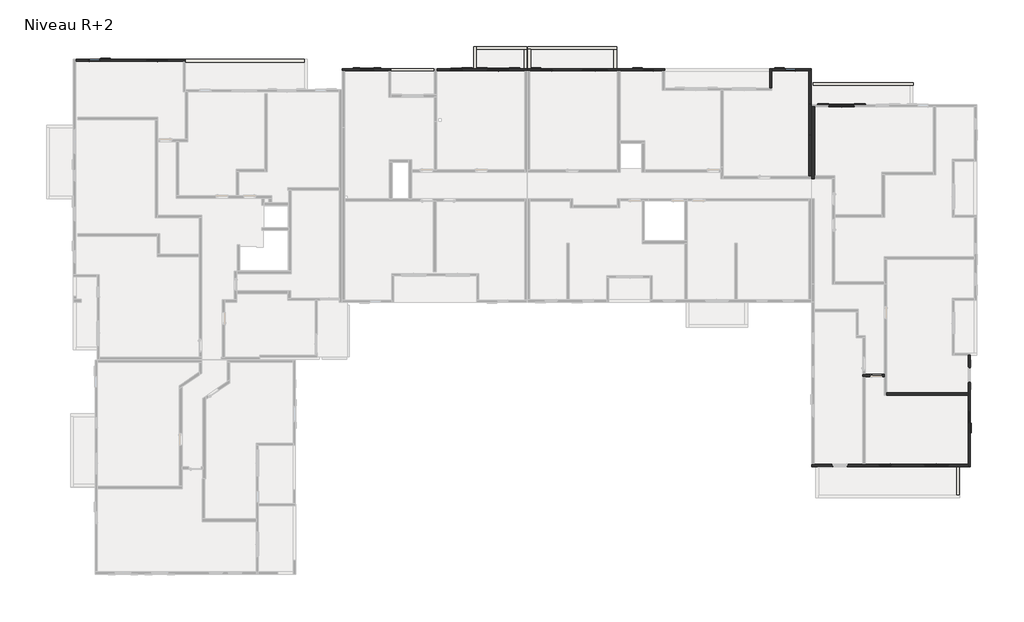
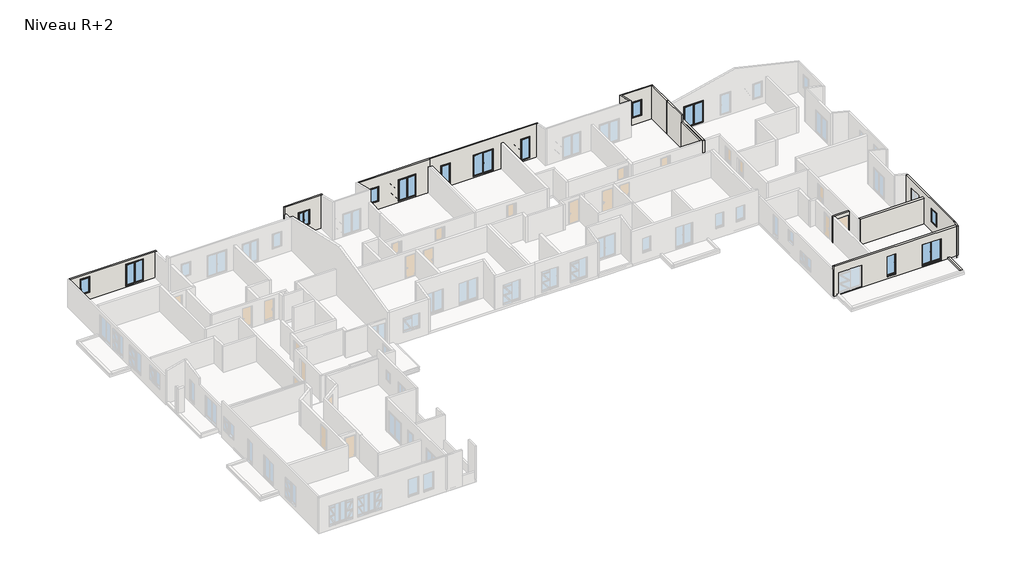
# One storey, part 6 of 7: 24 walls, 13 windows.
"""IFC4 building model written with IfcOpenShell, lengths in millimetres."""

from ifc_helpers import new_model, si_unit, frame, origin, place, context, project, spatial, polyline, outline, extrude, faceted_brep, transform, mapped, element, save
from components import window_4f2076fb, window_e9bb7084, window_f6eb430b, window_ad9d5288, window_5cb186f5, window_0_80m_x_2_05m_30132c93, window_0_80m_x_2_15m_d907a714, window_1_60m_x_2_15m_1bfb613b, window_1_60m_x_2_15m_e7e592b5, window_1_80m_x_2_15m_7d3a4370, window_1_80m_x_2_15m_c17098d0

model = new_model("IFC4")

# Units and contexts
model_context = context("Model", 3, world=origin())
ifc_project = project(units=[si_unit("LENGTHUNIT", "METRE", prefix="MILLI")], contexts=[model_context])

# Site, building, storey
site = spatial("IfcSite", under=ifc_project)
building = spatial("IfcBuilding", under=site)
storey = spatial("IfcBuildingStorey", under=building, Name="Niveau R+2", Elevation=6120.0)

# Walls
placement = place(None, origin())
element("IfcWall", 1, ObjectType="Ext. Voile BA 16 + 2 + 2", at=placement, inside=storey, context=model_context, shape_type="SweptSolid", body=[
    extrude(outline(polyline([(5830.0, 27444.3814808), (5830.0, 30904.3814808), (6030.0, 30904.3814808), (6030.0, 30824.3814808), (6980.0, 30824.3814808), (6980.0, 27524.3814808), (6030.0, 27524.3814808), (6030.0, 27444.3814808), (5830.0, 27444.3814808)])), frame((0.0, 31947.4974719, 0.0), z_axis=(0.0, 1.0, 0.0), x_axis=(0.0, 0.0, 1.0)), (0.0, 0.0, 1.0), 160.0),
])
element("IfcWall", 2, ObjectType="Ext. Voile BA 16 + Isolant 12 sans enduit", at=placement, inside=storey, context=model_context, shape_type="Brep", body=[
    faceted_brep([(59132.9661689, 29387.496363, 6030.0), (59132.9661689, 27052.4942338, 6030.0), (59132.9661689, 27052.4942338, 8650.0), (59132.9661689, 27052.4942338, 9400.7771099), (59132.9661689, 29387.496363, 9400.7771099), (59292.9661689, 29387.496363, 6030.0), (59292.9661689, 29387.496363, 9363.8381993), (59292.9661689, 27052.4942338, 9363.8381993), (59292.9661689, 27052.4942338, 8650.0), (59292.9661689, 27052.4942338, 6030.0)], [[[0, 1, 2, 3, 4]], [[5, 6, 7, 8, 9]], [[1, 0, 5, 9]], [[3, 2, 1, 9, 8, 7]], [[0, 4, 6, 5]], [[4, 3, 7, 6]]]),
])
element("IfcWall", 3, ObjectType="Ext. Voile BA 16 + Isolant 120", at=placement, inside=storey, context=model_context, shape_type="Brep", body=[
    faceted_brep([(23871.9389593, 31947.4974719, 5830.0), (27444.3814808, 31947.4974719, 5830.0), (27444.3814808, 31947.4974719, 6030.0), (27524.3814808, 31947.4974719, 6030.0), (27524.3814808, 31947.4974719, 9403.3012228), (27364.3814808, 31947.4974719, 9403.3012228), (23872.0202028, 31947.4974719, 9403.3012228), (23872.0030755, 31947.4974719, 8649.9999985), (23871.9435065, 31947.4974719, 6029.9999999), (26224.3814808, 31947.4974719, 6855.0), (25224.3814808, 31947.4974719, 6855.0), (25174.3814808, 31947.4974719, 6855.0), (25174.3814808, 31947.4974719, 8355.0), (26274.3814808, 31947.4974719, 8355.0), (26274.3814808, 31947.4974719, 6855.0), (27444.3814808, 32107.4974719, 5830.0), (23871.9389593, 32107.4974719, 5830.0), (23871.9389593, 32107.4974719, 9366.3623123), (27524.3814808, 32107.4974719, 9366.3623123), (27524.3814808, 32107.4974719, 6030.0), (27444.3814808, 32107.4974719, 6030.0), (25224.3814808, 32107.4974719, 8305.0), (25224.3814808, 32107.4974719, 6775.0), (26224.3814808, 32107.4974719, 6775.0), (26224.3814808, 32107.4974719, 8305.0), (25224.3814808, 32027.4974719, 6855.0), (25224.3814808, 32027.4974719, 6775.0), (25224.3814808, 32047.4974719, 8305.0), (25224.3814808, 32047.4974719, 6855.0), (26224.3814808, 32027.4974719, 6775.0), (26224.3814808, 32027.4974719, 6855.0), (26224.3814808, 32047.4974719, 6855.0), (26224.3814808, 32047.4974719, 8305.0), (25214.3814808, 32047.4974719, 6855.0), (25214.3814808, 31997.4974719, 6855.0), (25174.3814808, 31997.4974719, 6855.0), (26274.3814808, 31997.4974719, 6855.0), (26234.3814808, 31997.4974719, 6855.0), (26234.3814808, 32047.4974719, 6855.0), (25174.3814808, 31997.4974719, 8355.0), (26274.3814808, 31997.4974719, 8355.0), (25214.3814808, 31997.4974719, 8315.0), (26234.3814808, 31997.4974719, 8315.0), (25214.3814808, 32047.4974719, 8315.0), (26234.3814808, 32047.4974719, 8315.0)], [[[0, 1, 2, 3, 4, 5, 6, 7, 8], [9, 10, 11, 12, 13, 14]], [[15, 16, 17, 18, 19, 20], [21, 22, 23, 24]], [[1, 0, 16, 15]], [[25, 26, 22, 21, 27, 28]], [[29, 30, 31, 32, 24, 23]], [[25, 28, 33, 34, 35, 11, 10, 9, 14, 36, 37, 38, 31, 30]], [[32, 27, 21, 24]], [[26, 29, 23, 22]], [[26, 25, 30, 29]], [[11, 35, 39, 12]], [[37, 36, 40, 39, 35, 34, 41, 42]], [[34, 33, 43, 41]], [[28, 27, 32, 31, 38, 44, 43, 33]], [[12, 39, 40, 13]], [[42, 41, 43, 44]], [[36, 14, 13, 40]], [[38, 37, 42, 44]], [[1, 15, 20, 2]], [[3, 2, 20, 19]], [[3, 19, 18, 4]], [[16, 0, 8, 7, 6, 17]], [[4, 18, 17, 6, 5]]]),
])
element("IfcWall", 4, ObjectType="Ext. Voile BA 16 + Isolant 120", at=placement, inside=storey, context=model_context, shape_type="Brep", body=[
    faceted_brep([(30904.3814808, 31947.4972516, 5830.0), (30984.3814808, 31947.4972516, 5830.0), (37808.3832806, 31947.4972516, 5830.0), (37829.4832806, 31947.4972516, 5830.0), (37829.4832806, 31947.4972516, 6030.0), (37829.4832806, 31947.4972516, 8650.0), (37829.4832806, 31947.4972516, 9403.3012737), (30984.3814808, 31947.4972516, 9403.3012737), (30984.3814808, 31947.4972516, 6030.0), (30904.3814808, 31947.4972516, 6030.0), (32864.3814808, 31947.4972516, 6855.0), (32064.3814808, 31947.4972516, 6855.0), (32014.3814808, 31947.4972516, 6855.0), (32014.3814808, 31947.4972516, 8355.0), (32914.3814808, 31947.4972516, 8355.0), (32914.3814808, 31947.4972516, 6855.0), (36445.3833051, 31947.4972516, 6155.0), (34845.3833051, 31947.4972516, 6155.0), (34795.3833051, 31947.4972516, 6155.0), (34795.3833051, 31947.4972516, 8355.0), (36495.3833051, 31947.4972516, 8355.0), (36495.3833051, 31947.4972516, 6155.0), (37829.4832806, 32107.4972516, 5830.0), (37808.3832806, 32107.4972516, 5830.0), (30984.3814808, 32107.4972516, 5830.0), (30904.3814808, 32107.4972516, 5830.0), (30904.3814808, 32107.4972516, 6030.0), (30984.3814808, 32107.4972516, 6030.0), (30984.3814808, 32107.4972516, 9366.3623631), (37829.4832806, 32107.4972516, 9366.3623631), (32064.3814808, 32107.4972516, 8305.0), (32064.3814808, 32107.4972516, 6775.0), (32864.3814808, 32107.4972516, 6775.0), (32864.3814808, 32107.4972516, 8305.0), (34845.3833051, 32107.4972516, 8305.0), (34845.3833051, 32107.4972516, 6146.5916612), (36445.3833051, 32107.4972516, 6146.5916612), (36445.3833051, 32107.4972516, 8305.0), (32064.3814808, 32027.4972516, 6855.0), (32064.3814808, 32027.4972516, 6775.0), (32064.3814808, 32047.4972516, 8305.0), (32064.3814808, 32047.4972516, 6855.0), (32864.3814808, 32027.4972516, 6775.0), (32864.3814808, 32027.4972516, 6855.0), (32864.3814808, 32047.4972516, 6855.0), (32864.3814808, 32047.4972516, 8305.0), (32054.3814808, 32047.4972516, 6855.0), (32054.3814808, 31997.4972516, 6855.0), (32014.3814808, 31997.4972516, 6855.0), (32914.3814808, 31997.4972516, 6855.0), (32874.3814808, 31997.4972516, 6855.0), (32874.3814808, 32047.4972516, 6855.0), (32014.3814808, 31997.4972516, 8355.0), (32914.3814808, 31997.4972516, 8355.0), (32054.3814808, 31997.4972516, 8315.0), (32874.3814808, 31997.4972516, 8315.0), (32054.3814808, 32047.4972516, 8315.0), (32874.3814808, 32047.4972516, 8315.0), (34845.3833051, 32047.4972516, 8305.0), (34845.3833051, 32047.4972516, 6155.0), (34845.3833051, 32027.4972516, 6155.0), (36445.3833051, 32027.4972516, 6155.0), (36445.3833051, 32047.4972516, 6155.0), (36445.3833051, 32047.4972516, 8305.0), (34835.3833051, 32047.4972516, 6155.0), (34835.3833051, 31997.4972516, 6155.0), (34795.3833051, 31997.4972516, 6155.0), (36495.3833051, 31997.4972516, 6155.0), (36455.3833051, 31997.4972516, 6155.0), (36455.3833051, 32047.4972516, 6155.0), (34795.3833051, 31997.4972516, 8355.0), (36495.3833051, 31997.4972516, 8355.0), (34835.3833051, 31997.4972516, 8315.0), (36455.3833051, 31997.4972516, 8315.0), (34835.3833051, 32047.4972516, 8315.0), (36455.3833051, 32047.4972516, 8315.0)], [[[0, 1, 2, 3, 4, 5, 6, 7, 8, 9], [10, 11, 12, 13, 14, 15], [16, 17, 18, 19, 20, 21]], [[22, 23, 24, 25, 26, 27, 28, 29], [30, 31, 32, 33], [34, 35, 36, 37]], [[3, 2, 1, 0, 25, 24, 23, 22]], [[38, 39, 31, 30, 40, 41]], [[42, 43, 44, 45, 33, 32]], [[38, 41, 46, 47, 48, 12, 11, 10, 15, 49, 50, 51, 44, 43]], [[45, 40, 30, 33]], [[39, 42, 32, 31]], [[39, 38, 43, 42]], [[12, 48, 52, 13]], [[50, 49, 53, 52, 48, 47, 54, 55]], [[47, 46, 56, 54]], [[41, 40, 45, 44, 51, 57, 56, 46]], [[13, 52, 53, 14]], [[55, 54, 56, 57]], [[49, 15, 14, 53]], [[51, 50, 55, 57]], [[58, 59, 60, 35, 34]], [[61, 62, 63, 37, 36]], [[60, 59, 64, 65, 66, 18, 17, 16, 21, 67, 68, 69, 62, 61]], [[63, 58, 34, 37]], [[60, 61, 36, 35]], [[18, 66, 70, 19]], [[68, 67, 71, 70, 66, 65, 72, 73]], [[65, 64, 74, 72]], [[59, 58, 63, 62, 69, 75, 74, 64]], [[19, 70, 71, 20]], [[73, 72, 74, 75]], [[67, 21, 20, 71]], [[69, 68, 73, 75]], [[25, 0, 9, 26]], [[27, 26, 9, 8]], [[27, 8, 7, 28]], [[3, 22, 29, 6, 5, 4]], [[7, 6, 29, 28]]]),
])
element("IfcWall", 5, ObjectType="Ext. Voile BA 16 + Isolant 120", at=placement, inside=storey, context=model_context, shape_type="Brep", body=[
    faceted_brep([(11991.9058449, 32650.6398567, 8650.0), (11831.9058449, 32650.6398567, 8650.0), (3696.9058449, 32650.6398567, 8650.0), (3696.9058449, 32650.6398567, 6030.0), (11831.9058449, 32650.6398567, 6030.0), (11991.9058449, 32650.6398567, 6030.0), (5566.9058449, 32650.6398567, 6755.0), (4666.9058449, 32650.6398567, 6755.0), (4666.9058449, 32650.6398567, 8355.0), (5566.9058449, 32650.6398567, 8355.0), (10721.9058449, 32650.6398567, 6155.0), (9021.9058449, 32650.6398567, 6155.0), (9021.9058449, 32650.6398567, 8355.0), (10721.9058449, 32650.6398567, 8355.0), (3696.9058449, 32810.6398567, 8650.0), (11991.9058449, 32810.6398567, 8650.0), (11991.9058449, 32810.6398567, 6030.0), (3696.9058449, 32810.6398567, 6030.0), (4716.9058449, 32810.6398567, 8305.0), (4716.9058449, 32810.6398567, 6675.0), (5516.9058449, 32810.6398567, 6675.0), (5516.9058449, 32810.6398567, 8305.0), (9071.9058449, 32810.6398567, 8305.0), (9071.9058449, 32810.6398567, 6146.5916612), (10671.9058449, 32810.6398567, 6146.5916612), (10671.9058449, 32810.6398567, 8305.0), (4716.9058449, 32730.6398567, 6755.0), (4716.9058449, 32730.6398567, 6675.0), (4716.9058449, 32750.6398567, 8305.0), (4716.9058449, 32750.6398567, 6755.0), (5516.9058449, 32730.6398567, 6675.0), (5516.9058449, 32730.6398567, 6755.0), (5516.9058449, 32750.6398567, 6755.0), (5516.9058449, 32750.6398567, 8305.0), (4706.9058449, 32750.6398567, 6755.0), (4706.9058449, 32700.6398567, 6755.0), (4666.9058449, 32700.6398567, 6755.0), (5566.9058449, 32700.6398567, 6755.0), (5526.9058449, 32700.6398567, 6755.0), (5526.9058449, 32750.6398567, 6755.0), (4666.9058449, 32700.6398567, 8355.0), (4706.9058449, 32700.6398567, 8315.0), (5526.9058449, 32700.6398567, 8315.0), (5566.9058449, 32700.6398567, 8355.0), (4706.9058449, 32750.6398567, 8315.0), (5526.9058449, 32750.6398567, 8315.0), (9071.9058449, 32730.6398567, 6155.0), (9071.9058449, 32750.6398567, 8305.0), (9071.9058449, 32750.6398567, 6155.0), (10671.9058449, 32730.6398567, 6155.0), (10671.9058449, 32750.6398567, 6155.0), (10671.9058449, 32750.6398567, 8305.0), (9061.9058449, 32750.6398567, 6155.0), (9061.9058449, 32700.6398567, 6155.0), (9021.9058449, 32700.6398567, 6155.0), (10721.9058449, 32700.6398567, 6155.0), (10681.9058449, 32700.6398567, 6155.0), (10681.9058449, 32750.6398567, 6155.0), (9021.9058449, 32700.6398567, 8355.0), (9061.9058449, 32700.6398567, 8315.0), (10681.9058449, 32700.6398567, 8315.0), (10721.9058449, 32700.6398567, 8355.0), (9061.9058449, 32750.6398567, 8315.0), (10681.9058449, 32750.6398567, 8315.0)], [[[0, 1, 2, 3, 4, 5], [6, 7, 8, 9], [10, 11, 12, 13]], [[14, 15, 16, 17], [18, 19, 20, 21], [22, 23, 24, 25]], [[2, 1, 0, 15, 14]], [[15, 0, 5, 16]], [[26, 27, 19, 18, 28, 29]], [[30, 31, 32, 33, 21, 20]], [[19, 27, 30, 20]], [[27, 26, 31, 30]], [[28, 18, 21, 33]], [[26, 29, 34, 35, 36, 7, 6, 37, 38, 39, 32, 31]], [[7, 36, 40, 8]], [[36, 35, 41, 42, 38, 37, 43, 40]], [[35, 34, 44, 41]], [[29, 28, 33, 32, 39, 45, 44, 34]], [[8, 40, 43, 9]], [[42, 41, 44, 45]], [[37, 6, 9, 43]], [[39, 38, 42, 45]], [[46, 23, 22, 47, 48]], [[24, 49, 50, 51, 25]], [[23, 46, 49, 24]], [[47, 22, 25, 51]], [[46, 48, 52, 53, 54, 11, 10, 55, 56, 57, 50, 49]], [[11, 54, 58, 12]], [[54, 53, 59, 60, 56, 55, 61, 58]], [[53, 52, 62, 59]], [[48, 47, 51, 50, 57, 63, 62, 52]], [[12, 58, 61, 13]], [[60, 59, 62, 63]], [[55, 10, 13, 61]], [[57, 56, 60, 63]], [[2, 14, 17, 3]], [[5, 4, 3, 17, 16]]]),
])
element("IfcWall", 6, ObjectType="Ext. Voile BA 16 + Isolant 120", at=placement, inside=storey, context=model_context, shape_type="Brep", body=[
    faceted_brep([(37888.6832806, 31927.4960094, 5830.0), (48140.3941376, 31927.4960094, 5830.0), (48140.3941376, 31927.4960094, 6030.0), (48220.3941376, 31927.4960094, 6030.0), (48220.3941376, 31927.4960094, 9407.9189243), (48060.3941376, 31927.4960094, 9407.9189243), (37868.7313075, 31927.4960094, 9407.9189243), (37868.7313075, 31927.4960094, 8650.0), (37868.7313075, 31927.4960094, 6030.0), (37888.6832806, 31927.4960094, 6030.0), (43907.3927707, 31927.4960094, 6155.0), (42007.3927707, 31927.4960094, 6155.0), (42007.3927707, 31927.4960094, 8355.0), (43907.3927707, 31927.4960094, 8355.0), (39769.4832806, 31927.4960094, 6155.0), (38869.4832806, 31927.4960094, 6155.0), (38869.4832806, 31927.4960094, 8355.0), (39769.4832806, 31927.4960094, 8355.0), (47440.760924, 31927.4960094, 6155.0), (46540.760924, 31927.4960094, 6155.0), (46540.760924, 31927.4960094, 8355.0), (47440.760924, 31927.4960094, 8355.0), (37888.6832806, 32087.4960094, 5830.0), (37888.6832806, 32087.4960094, 6030.0), (37868.7313075, 32087.4960094, 6030.0), (37868.7313075, 32087.4960094, 9370.9800137), (48220.3941376, 32087.4960094, 9370.9800137), (48220.3941376, 32087.4960094, 6180.0), (48220.3941376, 32087.4960094, 6030.0), (48140.3941376, 32087.4960094, 6030.0), (48140.3941376, 32087.4960094, 5830.0), (44595.5196685, 32087.4960094, 5830.0), (44395.5196685, 32087.4960094, 5830.0), (38088.6832806, 32087.4960094, 5830.0), (42057.3927707, 32087.4960094, 8305.0), (42057.3927707, 32087.4960094, 6146.5916612), (43857.3927707, 32087.4960094, 6146.5916612), (43857.3927707, 32087.4960094, 8305.0), (39719.4832806, 32087.4960094, 6146.5916612), (39719.4832806, 32087.4960094, 8305.0), (38919.4832806, 32087.4960094, 8305.0), (38919.4832806, 32087.4960094, 6146.5916612), (47390.760924, 32087.4960094, 6146.5916612), (47390.760924, 32087.4960094, 8305.0), (46590.760924, 32087.4960094, 8305.0), (46590.760924, 32087.4960094, 6146.5916612), (42057.3927707, 32007.4960094, 6155.0), (42057.3927707, 32027.4960094, 8305.0), (42057.3927707, 32027.4960094, 6155.0), (43857.3927707, 32007.4960094, 6155.0), (43857.3927707, 32027.4960094, 6155.0), (43857.3927707, 32027.4960094, 8305.0), (42047.3927707, 32027.4960094, 6155.0), (42047.3927707, 31977.4960094, 6155.0), (42007.3927707, 31977.4960094, 6155.0), (43907.3927707, 31977.4960094, 6155.0), (43867.3927707, 31977.4960094, 6155.0), (43867.3927707, 32027.4960094, 6155.0), (42007.3927707, 31977.4960094, 8355.0), (42047.3927707, 31977.4960094, 8315.0), (43867.3927707, 31977.4960094, 8315.0), (43907.3927707, 31977.4960094, 8355.0), (42047.3927707, 32027.4960094, 8315.0), (43867.3927707, 32027.4960094, 8315.0), (39719.4832806, 32007.4960094, 6155.0), (39719.4832806, 32027.4960094, 6155.0), (39719.4832806, 32027.4960094, 8305.0), (38919.4832806, 32027.4960094, 8305.0), (38919.4832806, 32027.4960094, 6155.0), (38919.4832806, 32007.4960094, 6155.0), (38909.4832806, 32027.4960094, 6155.0), (38909.4832806, 31977.4960094, 6155.0), (38869.4832806, 31977.4960094, 6155.0), (39769.4832806, 31977.4960094, 6155.0), (39729.4832806, 31977.4960094, 6155.0), (39729.4832806, 32027.4960094, 6155.0), (39769.4832806, 31977.4960094, 8355.0), (38869.4832806, 31977.4960094, 8355.0), (38909.4832806, 31977.4960094, 8315.0), (39729.4832806, 31977.4960094, 8315.0), (39729.4832806, 32027.4960094, 8315.0), (38909.4832806, 32027.4960094, 8315.0), (47390.760924, 32007.4960094, 6155.0), (47390.760924, 32027.4960094, 6155.0), (47390.760924, 32027.4960094, 8305.0), (46590.760924, 32027.4960094, 8305.0), (46590.760924, 32027.4960094, 6155.0), (46590.760924, 32007.4960094, 6155.0), (46580.760924, 32027.4960094, 6155.0), (46580.760924, 31977.4960094, 6155.0), (46540.760924, 31977.4960094, 6155.0), (47440.760924, 31977.4960094, 6155.0), (47400.760924, 31977.4960094, 6155.0), (47400.760924, 32027.4960094, 6155.0), (47440.760924, 31977.4960094, 8355.0), (46540.760924, 31977.4960094, 8355.0), (46580.760924, 31977.4960094, 8315.0), (47400.760924, 31977.4960094, 8315.0), (47400.760924, 32027.4960094, 8315.0), (46580.760924, 32027.4960094, 8315.0)], [[[0, 1, 2, 3, 4, 5, 6, 7, 8, 9], [10, 11, 12, 13], [14, 15, 16, 17], [18, 19, 20, 21]], [[22, 23, 24, 25, 26, 27, 28, 29, 30, 31, 32, 33], [34, 35, 36, 37], [38, 39, 40, 41], [42, 43, 44, 45]], [[1, 0, 22, 33, 32, 31, 30]], [[46, 35, 34, 47, 48]], [[36, 49, 50, 51, 37]], [[46, 49, 36, 35]], [[34, 37, 51, 47]], [[49, 46, 48, 52, 53, 54, 11, 10, 55, 56, 57, 50]], [[11, 54, 58, 12]], [[54, 53, 59, 60, 56, 55, 61, 58]], [[53, 52, 62, 59]], [[52, 48, 47, 51, 50, 57, 63, 62]], [[12, 58, 61, 13]], [[60, 59, 62, 63]], [[61, 55, 10, 13]], [[56, 60, 63, 57]], [[64, 65, 66, 39, 38]], [[41, 40, 67, 68, 69]], [[64, 38, 41, 69]], [[39, 66, 67, 40]], [[69, 68, 70, 71, 72, 15, 14, 73, 74, 75, 65, 64]], [[14, 17, 76, 73]], [[73, 76, 77, 72, 71, 78, 79, 74]], [[74, 79, 80, 75]], [[75, 80, 81, 70, 68, 67, 66, 65]], [[17, 16, 77, 76]], [[78, 81, 80, 79]], [[77, 16, 15, 72]], [[71, 70, 81, 78]], [[82, 83, 84, 43, 42]], [[45, 44, 85, 86, 87]], [[82, 42, 45, 87]], [[43, 84, 85, 44]], [[87, 86, 88, 89, 90, 19, 18, 91, 92, 93, 83, 82]], [[18, 21, 94, 91]], [[91, 94, 95, 90, 89, 96, 97, 92]], [[92, 97, 98, 93]], [[93, 98, 99, 88, 86, 85, 84, 83]], [[21, 20, 95, 94]], [[96, 99, 98, 97]], [[95, 20, 19, 90]], [[89, 88, 99, 96]], [[0, 9, 23, 22]], [[6, 5, 4, 26, 25]], [[8, 24, 23, 9]], [[2, 1, 30, 29]], [[28, 3, 2, 29]], [[3, 28, 27, 26, 4]], [[6, 25, 24, 8, 7]]]),
])
element("IfcWall", 7, ObjectType="Ext. Voile BA 16 + Isolant 120", at=placement, inside=storey, context=model_context, shape_type="Brep", body=[
    faceted_brep([(56314.3903552, 30628.4145164, 6030.0), (56314.3903552, 31927.496363, 6030.0), (56314.3903552, 32087.496363, 6030.0), (56314.3903552, 32087.496363, 9370.9799321), (56314.3903552, 31927.496363, 9407.9188427), (56314.3903552, 30628.4145164, 9707.8355187), (56154.3903552, 30628.4145164, 6030.0), (56154.3903552, 30628.4145164, 9707.8355187), (56154.3903552, 32087.496363, 9370.9799321), (56154.3903552, 32087.496363, 6180.0), (56154.3903552, 32087.496363, 6030.0), (56154.3903552, 31887.4960094, 6030.0), (56234.3903552, 32087.496363, 6030.0)], [[[0, 1, 2, 3, 4, 5]], [[6, 7, 8, 9, 10, 11]], [[2, 1, 0, 6, 11, 10, 12]], [[0, 5, 7, 6]], [[5, 4, 3, 8, 7]], [[2, 12, 10, 9, 8, 3]]]),
])
element("IfcWall", 8, ObjectType="Ext. Voile BA 16 + Isolant 120", at=placement, inside=storey, context=model_context, shape_type="Brep", body=[
    faceted_brep([(56234.3903552, 31927.496363, 5830.0), (59132.9661689, 31927.496363, 5830.0), (59292.9661689, 31927.496363, 5830.0), (59292.9661689, 31927.496363, 9363.8381993), (59132.9661689, 31927.496363, 9400.7771099), (59102.0319258, 31927.496363, 9407.9188427), (56314.3903552, 31927.496363, 9407.9188427), (56314.3903552, 31927.496363, 6030.0), (56234.3903552, 31927.496363, 6030.0), (58173.6782621, 31927.496363, 6755.0), (57273.6782621, 31927.496363, 6755.0), (57273.6782621, 31927.496363, 8355.0), (58173.6782621, 31927.496363, 8355.0), (56234.3903552, 32087.496363, 5830.0), (56234.3903552, 32087.496363, 6030.0), (56314.3903552, 32087.496363, 6030.0), (56314.3903552, 32087.496363, 9370.9799321), (59262.0319258, 32087.496363, 9370.9799321), (59292.9661689, 32087.496363, 9363.8381993), (59292.9661689, 32087.496363, 5830.0), (58123.6782621, 32087.496363, 6675.0), (58123.6782621, 32087.496363, 8305.0), (57323.6782621, 32087.496363, 8305.0), (57323.6782621, 32087.496363, 6675.0), (58123.6782621, 32007.496363, 6755.0), (58123.6782621, 32027.496363, 6755.0), (58123.6782621, 32027.496363, 8305.0), (58123.6782621, 32007.496363, 6675.0), (57323.6782621, 32007.496363, 6675.0), (57323.6782621, 32027.496363, 8305.0), (57323.6782621, 32027.496363, 6755.0), (57323.6782621, 32007.496363, 6755.0), (57313.6782621, 32027.496363, 6755.0), (57313.6782621, 31977.496363, 6755.0), (57273.6782621, 31977.496363, 6755.0), (58173.6782621, 31977.496363, 6755.0), (58133.6782621, 31977.496363, 6755.0), (58133.6782621, 32027.496363, 6755.0), (58173.6782621, 31977.496363, 8355.0), (57273.6782621, 31977.496363, 8355.0), (57313.6782621, 31977.496363, 8315.0), (58133.6782621, 31977.496363, 8315.0), (58133.6782621, 32027.496363, 8315.0), (57313.6782621, 32027.496363, 8315.0)], [[[0, 1, 2, 3, 4, 5, 6, 7, 8], [9, 10, 11, 12]], [[13, 14, 15, 16, 17, 18, 19], [20, 21, 22, 23]], [[2, 1, 0, 13, 19]], [[3, 2, 19, 18]], [[24, 25, 26, 21, 20, 27]], [[28, 23, 22, 29, 30, 31]], [[27, 20, 23, 28]], [[27, 28, 31, 24]], [[21, 26, 29, 22]], [[31, 30, 32, 33, 34, 10, 9, 35, 36, 37, 25, 24]], [[9, 12, 38, 35]], [[35, 38, 39, 34, 33, 40, 41, 36]], [[36, 41, 42, 37]], [[37, 42, 43, 32, 30, 29, 26, 25]], [[12, 11, 39, 38]], [[40, 43, 42, 41]], [[39, 11, 10, 34]], [[33, 32, 43, 40]], [[6, 5, 17, 16]], [[5, 4, 3, 18, 17]], [[0, 8, 14, 13]], [[7, 15, 14, 8]], [[6, 16, 15, 7]]]),
])
element("IfcWall", 9, ObjectType="Ext. Voile BA 16 + Isolant 120", at=placement, inside=storey, context=model_context, shape_type="Brep", body=[
    faceted_brep([(59132.9661689, 31927.496363, 5830.0), (59132.9661689, 29387.496363, 5830.0), (59132.9661689, 29387.496363, 6030.0), (59132.9661689, 29387.496363, 9400.7771099), (59132.9661689, 31927.496363, 9400.7771099), (59292.9661689, 31927.496363, 5830.0), (59292.9661689, 31927.496363, 9363.8381993), (59292.9661689, 29387.496363, 9363.8381993), (59292.9661689, 29387.496363, 6030.0), (59292.9661689, 29387.496363, 5830.0)], [[[0, 1, 2, 3, 4]], [[5, 6, 7, 8, 9]], [[1, 0, 5, 9]], [[3, 2, 1, 9, 8, 7]], [[0, 4, 6, 5]], [[4, 3, 7, 6]]]),
])
element("IfcWall", 10, ObjectType="Ext. Voile BA 16 + Isolant 120", at=placement, inside=storey, context=model_context, shape_type="Brep", body=[
    faceted_brep([(71157.0281909, 10444.6162149, 5830.0), (71157.0281909, 2024.0269927, 5830.0), (71157.0281909, 2024.0269927, 6030.0), (71157.0281909, 2024.0269927, 9054.6173638), (71157.0281909, 2184.0269927, 9091.5562744), (71157.0281909, 2667.2966622, 9203.1278688), (71157.0281909, 10424.6162149, 9203.1278688), (71157.0281909, 10424.6162149, 7160.0), (71157.0281909, 10424.6162149, 6030.0), (71157.0281909, 10444.6162149, 6030.0), (71157.0281909, 8355.2240545, 6855.0), (71157.0281909, 9555.2240545, 6855.0), (71157.0281909, 9555.2240545, 8355.0), (71157.0281909, 8355.2240545, 8355.0), (71157.0281909, 5315.5919516, 6955.0), (71157.0281909, 6215.5919516, 6955.0), (71157.0281909, 6215.5919516, 8355.0), (71157.0281909, 5315.5919516, 8355.0), (71317.0281909, 10444.6162149, 5830.0), (71317.0281909, 10444.6162149, 6030.0), (71317.0281909, 10444.6162149, 7160.0), (71317.0281909, 10424.6162149, 7160.0), (71317.0281909, 10424.6162149, 9166.1889582), (71317.0281909, 2507.2966622, 9166.1889582), (71317.0281909, 2024.0269927, 9054.6173638), (71317.0281909, 2024.0269927, 5830.0), (71317.0281909, 9505.2240545, 8305.0), (71317.0281909, 9505.2240545, 6775.0), (71317.0281909, 8405.2240545, 6775.0), (71317.0281909, 8405.2240545, 8305.0), (71317.0281909, 6165.5919516, 8305.0), (71317.0281909, 6165.5919516, 6875.0), (71317.0281909, 5365.5919516, 6875.0), (71317.0281909, 5365.5919516, 8305.0), (71237.0281909, 9505.2240545, 6855.0), (71237.0281909, 9505.2240545, 6775.0), (71257.0281909, 9505.2240545, 8305.0), (71257.0281909, 9505.2240545, 6855.0), (71237.0281909, 8405.2240545, 6775.0), (71237.0281909, 8405.2240545, 6855.0), (71257.0281909, 8405.2240545, 6855.0), (71257.0281909, 8405.2240545, 8305.0), (71257.0281909, 9515.2240545, 6855.0), (71207.0281909, 9515.2240545, 6855.0), (71207.0281909, 9555.2240545, 6855.0), (71207.0281909, 8355.2240545, 6855.0), (71207.0281909, 8395.2240545, 6855.0), (71257.0281909, 8395.2240545, 6855.0), (71207.0281909, 9555.2240545, 8355.0), (71207.0281909, 9515.2240545, 8315.0), (71207.0281909, 8395.2240545, 8315.0), (71207.0281909, 8355.2240545, 8355.0), (71257.0281909, 9515.2240545, 8315.0), (71257.0281909, 8395.2240545, 8315.0), (71237.0281909, 6165.5919516, 6955.0), (71237.0281909, 6165.5919516, 6875.0), (71257.0281909, 6165.5919516, 8305.0), (71257.0281909, 6165.5919516, 6955.0), (71237.0281909, 5365.5919516, 6875.0), (71237.0281909, 5365.5919516, 6955.0), (71257.0281909, 5365.5919516, 6955.0), (71257.0281909, 5365.5919516, 8305.0), (71257.0281909, 6175.5919516, 6955.0), (71207.0281909, 6175.5919516, 6955.0), (71207.0281909, 6215.5919516, 6955.0), (71207.0281909, 5315.5919516, 6955.0), (71207.0281909, 5355.5919516, 6955.0), (71257.0281909, 5355.5919516, 6955.0), (71207.0281909, 6215.5919516, 8355.0), (71207.0281909, 6175.5919516, 8315.0), (71207.0281909, 5355.5919516, 8315.0), (71207.0281909, 5315.5919516, 8355.0), (71257.0281909, 6175.5919516, 8315.0), (71257.0281909, 5355.5919516, 8315.0), (71237.0281909, 10424.6162149, 6030.0), (71237.0281909, 10444.6162149, 6030.0), (71237.0281909, 10424.6162149, 7160.0), (71237.0281909, 10444.6162149, 7160.0)], [[[0, 1, 2, 3, 4, 5, 6, 7, 8, 9], [10, 11, 12, 13], [14, 15, 16, 17]], [[18, 19, 20, 21, 22, 23, 24, 25], [26, 27, 28, 29], [30, 31, 32, 33]], [[1, 0, 18, 25]], [[3, 2, 1, 25, 24]], [[34, 35, 27, 26, 36, 37]], [[38, 39, 40, 41, 29, 28]], [[35, 38, 28, 27]], [[35, 34, 39, 38]], [[26, 29, 41, 36]], [[39, 34, 37, 42, 43, 44, 11, 10, 45, 46, 47, 40]], [[11, 44, 48, 12]], [[44, 43, 49, 50, 46, 45, 51, 48]], [[43, 42, 52, 49]], [[42, 37, 36, 41, 40, 47, 53, 52]], [[12, 48, 51, 13]], [[50, 49, 52, 53]], [[51, 45, 10, 13]], [[46, 50, 53, 47]], [[54, 55, 31, 30, 56, 57]], [[58, 59, 60, 61, 33, 32]], [[55, 58, 32, 31]], [[30, 33, 61, 56]], [[59, 54, 57, 62, 63, 64, 15, 14, 65, 66, 67, 60]], [[15, 64, 68, 16]], [[64, 63, 69, 70, 66, 65, 71, 68]], [[63, 62, 72, 69]], [[62, 57, 56, 61, 60, 67, 73, 72]], [[16, 68, 71, 17]], [[70, 69, 72, 73]], [[71, 65, 14, 17]], [[66, 70, 73, 67]], [[8, 74, 75, 9]], [[0, 9, 75, 19, 18]], [[6, 5, 23, 22]], [[5, 4, 3, 24, 23]], [[55, 54, 59, 58]], [[76, 21, 20, 77]], [[8, 7, 76, 74]], [[76, 77, 75, 74]], [[77, 20, 19, 75]], [[7, 6, 22, 21, 76]]]),
])
element("IfcWall", 11, ObjectType="Ext. Voile BA 16 + Isolant 120", at=placement, inside=storey, context=model_context, shape_type="Brep", body=[
    faceted_brep([(59352.9059955, 2184.0269927, 9054.6173638), (59512.9059955, 2184.0269927, 9091.5562744), (71157.0281909, 2184.0269927, 9091.5562744), (71157.0281909, 2184.0269927, 6030.0), (63397.9323598, 2184.0269927, 6030.0), (63197.9323598, 2184.0269927, 6030.0), (59352.9059955, 2184.0269927, 6030.0), (59352.9059955, 2184.0269927, 8650.0), (67822.0281909, 2184.0269927, 6155.0), (69722.0281909, 2184.0269927, 6155.0), (69722.0281909, 2184.0269927, 8355.0), (67822.0281909, 2184.0269927, 8355.0), (64447.9323598, 2184.0269927, 6255.0), (65347.9323598, 2184.0269927, 6255.0), (65347.9323598, 2184.0269927, 8355.0), (64447.9323598, 2184.0269927, 8355.0), (60928.3161909, 2184.0269927, 6155.0), (62028.3161909, 2184.0269927, 6155.0), (62078.3161909, 2184.0269927, 6155.0), (62078.3161909, 2184.0269927, 8355.0), (60878.3161909, 2184.0269927, 8355.0), (60878.3161909, 2184.0269927, 6155.0), (71157.0281909, 2024.0269927, 9054.6173638), (59352.9059955, 2024.0269927, 9054.6173638), (59352.9059955, 2024.0269927, 6030.0), (59641.4596037, 2024.0269927, 6030.0), (59661.4596037, 2024.0269927, 6030.0), (59861.4596037, 2024.0269927, 6030.0), (70297.0236897, 2024.0269927, 6030.0), (70497.0236897, 2024.0269927, 6030.0), (71157.0281909, 2024.0269927, 6030.0), (69672.0281909, 2024.0269927, 8305.0), (69672.0281909, 2024.0269927, 6146.5916612), (67872.0281909, 2024.0269927, 6146.5916612), (67872.0281909, 2024.0269927, 8305.0), (65297.9323598, 2024.0269927, 8305.0), (65297.9323598, 2024.0269927, 6246.5916612), (64497.9323598, 2024.0269927, 6246.5916612), (64497.9323598, 2024.0269927, 8305.0), (62028.3161909, 2024.0269927, 8305.0), (62028.3161909, 2024.0269927, 6146.5916612), (60928.3161909, 2024.0269927, 6146.5916612), (60928.3161909, 2024.0269927, 8305.0), (69672.0281909, 2104.0269927, 6155.0), (69672.0281909, 2084.0269927, 8305.0), (69672.0281909, 2084.0269927, 6155.0), (67872.0281909, 2104.0269927, 6155.0), (67872.0281909, 2084.0269927, 6155.0), (67872.0281909, 2084.0269927, 8305.0), (69682.0281909, 2084.0269927, 6155.0), (69682.0281909, 2134.0269927, 6155.0), (69722.0281909, 2134.0269927, 6155.0), (67822.0281909, 2134.0269927, 6155.0), (67862.0281909, 2134.0269927, 6155.0), (67862.0281909, 2084.0269927, 6155.0), (69722.0281909, 2134.0269927, 8355.0), (69682.0281909, 2134.0269927, 8315.0), (67862.0281909, 2134.0269927, 8315.0), (67822.0281909, 2134.0269927, 8355.0), (69682.0281909, 2084.0269927, 8315.0), (67862.0281909, 2084.0269927, 8315.0), (65297.9323598, 2104.0269927, 6255.0), (65297.9323598, 2084.0269927, 8305.0), (65297.9323598, 2084.0269927, 6255.0), (64497.9323598, 2104.0269927, 6255.0), (64497.9323598, 2084.0269927, 6255.0), (64497.9323598, 2084.0269927, 8305.0), (65307.9323598, 2084.0269927, 6255.0), (65307.9323598, 2134.0269927, 6255.0), (65347.9323598, 2134.0269927, 6255.0), (64447.9323598, 2134.0269927, 6255.0), (64487.9323598, 2134.0269927, 6255.0), (64487.9323598, 2084.0269927, 6255.0), (65347.9323598, 2134.0269927, 8355.0), (65307.9323598, 2134.0269927, 8315.0), (64487.9323598, 2134.0269927, 8315.0), (64447.9323598, 2134.0269927, 8355.0), (65307.9323598, 2084.0269927, 8315.0), (64487.9323598, 2084.0269927, 8315.0), (62028.3161909, 2084.0269927, 8305.0), (62028.3161909, 2084.0269927, 6155.0), (62028.3161909, 2104.0269927, 6155.0), (60928.3161909, 2104.0269927, 6155.0), (60928.3161909, 2084.0269927, 6155.0), (60928.3161909, 2084.0269927, 8305.0), (62038.3161909, 2084.0269927, 6155.0), (62038.3161909, 2134.0269927, 6155.0), (62078.3161909, 2134.0269927, 6155.0), (60878.3161909, 2134.0269927, 6155.0), (60918.3161909, 2134.0269927, 6155.0), (60918.3161909, 2084.0269927, 6155.0), (62078.3161909, 2134.0269927, 8355.0), (60878.3161909, 2134.0269927, 8355.0), (62038.3161909, 2134.0269927, 8315.0), (60918.3161909, 2134.0269927, 8315.0), (62038.3161909, 2084.0269927, 8315.0), (60918.3161909, 2084.0269927, 8315.0)], [[[0, 1, 2, 3, 4, 5, 6, 7], [8, 9, 10, 11], [12, 13, 14, 15], [16, 17, 18, 19, 20, 21]], [[22, 23, 24, 25, 26, 27, 28, 29, 30], [31, 32, 33, 34], [35, 36, 37, 38], [39, 40, 41, 42]], [[2, 22, 30, 3]], [[23, 0, 7, 6, 24]], [[43, 32, 31, 44, 45]], [[33, 46, 47, 48, 34]], [[32, 43, 46, 33]], [[44, 31, 34, 48]], [[43, 45, 49, 50, 51, 9, 8, 52, 53, 54, 47, 46]], [[9, 51, 55, 10]], [[51, 50, 56, 57, 53, 52, 58, 55]], [[50, 49, 59, 56]], [[45, 44, 48, 47, 54, 60, 59, 49]], [[10, 55, 58, 11]], [[57, 56, 59, 60]], [[52, 8, 11, 58]], [[54, 53, 57, 60]], [[61, 36, 35, 62, 63]], [[37, 64, 65, 66, 38]], [[36, 61, 64, 37]], [[62, 35, 38, 66]], [[61, 63, 67, 68, 69, 13, 12, 70, 71, 72, 65, 64]], [[13, 69, 73, 14]], [[69, 68, 74, 75, 71, 70, 76, 73]], [[68, 67, 77, 74]], [[63, 62, 66, 65, 72, 78, 77, 67]], [[14, 73, 76, 15]], [[75, 74, 77, 78]], [[70, 12, 15, 76]], [[72, 71, 75, 78]], [[79, 80, 81, 40, 39]], [[82, 83, 84, 42, 41]], [[81, 80, 85, 86, 87, 18, 17, 16, 21, 88, 89, 90, 83, 82]], [[84, 79, 39, 42]], [[81, 82, 41, 40]], [[18, 87, 91, 19]], [[89, 88, 92, 91, 87, 86, 93, 94]], [[86, 85, 95, 93]], [[80, 79, 84, 83, 90, 96, 95, 85]], [[19, 91, 92, 20]], [[94, 93, 95, 96]], [[88, 21, 20, 92]], [[90, 89, 94, 96]], [[23, 22, 2, 1]], [[0, 23, 1]], [[6, 5, 4, 3, 30, 29, 28, 27, 26, 25, 24]]]),
])
element("IfcWall", 12, ObjectType="Ext. Voile BA 20", at=placement, inside=storey, context=model_context, shape_type="SweptSolid", body=[
    extrude(outline(polyline([(11971.9058449, 32790.6398567), (21011.3655761, 32790.6398567), (21011.3655761, 32590.6398567), (11971.9058449, 32590.6398567), (11971.9058449, 32790.6398567)])), frame((0.0, 0.0, 6030.0), z_axis=(0.0, 0.0, 1.0), x_axis=(1.0, 0.0, 0.0)), (0.0, 0.0, 1.0), 150.0),
])
element("IfcWall", 13, ObjectType="Ext. Voile BA 20", at=placement, inside=storey, context=model_context, shape_type="SweptSolid", body=[
    extrude(outline(polyline([(33777.981677, 33747.494317), (37808.398272, 33747.494317), (37808.398272, 33547.494317), (33777.981677, 33547.494317), (33777.981677, 33747.494317)])), frame((0.0, 0.0, 5830.0), z_axis=(0.0, 0.0, 1.0), x_axis=(1.0, 0.0, 0.0)), (0.0, 0.0, 1.0), 350.0),
])
element("IfcWall", 14, ObjectType="Ext. Voile BA 20", at=placement, inside=storey, context=model_context, shape_type="SweptSolid", body=[
    extrude(outline(polyline([(32107.4972516, 6180.0), (33767.494317, 6180.0), (33767.494317, 5830.0), (33747.494317, 5830.0), (33747.494317, 6030.0), (32107.4972516, 6030.0), (32107.4972516, 6180.0)])), frame((33777.981677, 0.0, 0.0), z_axis=(1.0, 0.0, 0.0), x_axis=(0.0, 1.0, 0.0)), (0.0, 0.0, 1.0), 200.0),
])
element("IfcWall", 15, ObjectType="Ext. Voile BA 20", at=placement, inside=storey, context=model_context, shape_type="SweptSolid", body=[
    extrude(outline(polyline([(44395.5196685, 32087.4960094), (44395.5196685, 33567.494317), (44595.5196685, 33567.494317), (44595.5196685, 32087.4960094), (44395.5196685, 32087.4960094)])), frame((0.0, 0.0, 5830.0), z_axis=(0.0, 0.0, 1.0), x_axis=(1.0, 0.0, 0.0)), (0.0, 0.0, 1.0), 350.0),
])
element("IfcWall", 16, ObjectType="Ext. Voile BA 20", at=placement, inside=storey, context=model_context, shape_type="Brep", body=[
    faceted_brep([(37888.6832806, 33547.4915585, 5830.0), (37888.6832806, 32087.4960094, 5830.0), (37888.6832806, 32087.4960094, 6030.0), (37888.6832806, 32087.4960094, 6180.0), (37888.6832806, 33547.4915585, 6180.0), (38088.6832806, 33547.4915585, 5830.0), (38088.6832806, 33547.4915585, 6180.0), (38088.6832806, 32087.4960094, 6180.0), (38088.6832806, 32087.4960094, 5830.0)], [[[0, 1, 2, 3, 4]], [[5, 6, 7, 8]], [[1, 0, 5, 8]], [[4, 3, 7, 6]], [[0, 4, 6, 5]], [[3, 2, 1, 8, 7]]]),
])
element("IfcWall", 17, ObjectType="Ext. Voile BA 20", at=placement, inside=storey, context=model_context, shape_type="Brep", body=[
    faceted_brep([(67000.298274, 30841.5866004, 5830.0), (67000.298274, 30841.5866004, 6180.0), (59457.998512, 30841.5866004, 6180.0), (59457.998512, 30841.5866004, 6030.0), (66980.298274, 30841.5866004, 6030.0), (66980.298274, 30841.5866004, 5830.0), (67000.298274, 31041.5866004, 6180.0), (67000.298274, 31041.5866004, 5830.0), (66980.298274, 31041.5866004, 5830.0), (66980.298274, 31041.5866004, 5832.1431597), (66980.298274, 31041.5866004, 6030.0), (59457.998512, 31041.5866004, 6030.0), (59457.998512, 31041.5866004, 6180.0)], [[[0, 1, 2, 3, 4, 5]], [[6, 7, 8, 9, 10, 11, 12]], [[7, 0, 5, 8]], [[1, 0, 7, 6]], [[2, 1, 6, 12]], [[2, 12, 11, 3]], [[10, 4, 3, 11]], [[4, 10, 9, 8, 5]]]),
])
element("IfcWall", 18, ObjectType="Ext. Voile BA 20", at=placement, inside=storey, context=model_context, shape_type="SweptSolid", body=[
    extrude(outline(polyline([(70497.0236897, 2024.0269927), (70497.0236897, -132.6247642), (70297.0236897, -132.6247642), (70297.0236897, 2024.0269927), (70497.0236897, 2024.0269927)])), frame((0.0, 0.0, 6030.0), z_axis=(0.0, 0.0, 1.0), x_axis=(1.0, 0.0, 0.0)), (0.0, 0.0, 1.0), 150.0),
])
element("IfcWall", 19, ObjectType="Ext. Voile BA 20 + 2 enduit", at=placement, inside=storey, context=model_context, shape_type="SweptSolid", body=[
    extrude(outline(polyline([(37868.6832806, 33767.494317), (44615.5196685, 33767.494317), (44615.5196685, 33567.494317), (37868.6832806, 33567.494317), (37868.6832806, 33767.494317)])), frame((0.0, 0.0, 5830.0), z_axis=(0.0, 0.0, 1.0), x_axis=(1.0, 0.0, 0.0)), (0.0, 0.0, 1.0), 350.0),
])
element("IfcWall", 20, ObjectType="Voile BA 16", at=placement, inside=storey, context=model_context, shape_type="SweptSolid", body=[
    extrude(outline(polyline([(59292.9632272, 27052.4942338), (59292.9632272, 23967.4942338), (59132.9632272, 23967.4942338), (59132.9632272, 27052.4942338), (59292.9632272, 27052.4942338)])), frame((0.0, 0.0, 6030.0), z_axis=(0.0, 0.0, 1.0), x_axis=(1.0, 0.0, 0.0)), (0.0, 0.0, 1.0), 2620.0),
])
element("IfcWall", 21, ObjectType="Voile BA 18 + 6 + 1", at=placement, inside=storey, context=model_context, shape_type="Brep", body=[
    faceted_brep([(64812.3590475, 9005.43291, 6030.0), (63377.9329052, 9005.43291, 6030.0), (63197.9329052, 9005.43291, 6030.0), (63197.9329052, 9005.43291, 8650.0), (63377.9329052, 9005.43291, 8650.0), (64812.3590475, 9005.43291, 8650.0), (64660.298274, 9005.43291, 8280.0), (63740.298274, 9005.43291, 8280.0), (63740.298274, 9005.43291, 6120.0), (64660.298274, 9005.43291, 6120.0), (63197.9329052, 8825.43291, 6030.0), (63397.9323598, 8825.43291, 6030.0), (64812.3590475, 8825.43291, 6030.0), (64812.3590475, 8825.43291, 8650.0), (63397.9323598, 8825.43291, 8650.0), (63197.9329052, 8825.43291, 8650.0), (63740.298274, 8825.43291, 6120.0), (63710.298274, 8825.43291, 6120.0), (63710.298274, 8825.43291, 8310.0), (64690.298274, 8825.43291, 8310.0), (64690.298274, 8825.43291, 6120.0), (64660.298274, 8825.43291, 6120.0), (64660.298274, 8925.43291, 8280.0), (63740.298274, 8925.43291, 8280.0), (63740.298274, 8925.43291, 6120.0), (63725.298274, 8925.43291, 6120.0), (63725.298274, 8882.43291, 6120.0), (63710.298274, 8882.43291, 6120.0), (64690.298274, 8882.43291, 6120.0), (64675.298274, 8882.43291, 6120.0), (64675.298274, 8925.43291, 6120.0), (64660.298274, 8925.43291, 6120.0), (63725.298274, 8882.43291, 8295.0), (64675.298274, 8882.43291, 8295.0), (64690.298274, 8882.43291, 8310.0), (63710.298274, 8882.43291, 8310.0), (63725.298274, 8925.43291, 8295.0), (64675.298274, 8925.43291, 8295.0)], [[[0, 1, 2, 3, 4, 5], [6, 7, 8, 9]], [[10, 11, 12, 13, 14, 15], [16, 17, 18, 19, 20, 21]], [[2, 1, 0, 12, 11, 10]], [[5, 4, 3, 15, 14, 13]], [[0, 5, 13, 12]], [[3, 2, 10, 15]], [[22, 23, 7, 6]], [[24, 25, 26, 27, 17, 16, 21, 20, 28, 29, 30, 31, 9, 8]], [[31, 22, 6, 9]], [[23, 24, 8, 7]], [[27, 26, 32, 33, 29, 28, 34, 35]], [[17, 27, 35, 18]], [[35, 34, 19, 18]], [[28, 20, 19, 34]], [[26, 25, 36, 32]], [[23, 22, 31, 30, 37, 36, 25, 24]], [[33, 32, 36, 37]], [[30, 29, 33, 37]]]),
])
element("IfcWall", 22, ObjectType="Voile BA 20", at=placement, inside=storey, context=model_context, shape_type="Brep", body=[
    faceted_brep([(59353.0074525, 29221.5866004, 6030.0), (59353.0074525, 23787.4942629, 6030.0), (59353.0074525, 23787.4942629, 8650.0), (59353.0074525, 29221.5866004, 8650.0), (59553.0074525, 29221.5866004, 6030.0), (59553.0074525, 29221.5866004, 8650.0), (59553.0074525, 23987.4942629, 8650.0), (59553.0074525, 23787.4942629, 8650.0), (59553.0074525, 23787.4942629, 6030.0), (59553.0074525, 23987.4942629, 6030.0)], [[[0, 1, 2, 3]], [[4, 5, 6, 7, 8, 9]], [[1, 0, 4, 9, 8]], [[3, 2, 7, 6, 5]], [[2, 1, 8, 7]], [[0, 3, 5, 4]]]),
])
element("IfcWall", 23, ObjectType="Voile BA 20", at=placement, inside=storey, context=model_context, shape_type="SweptSolid", body=[
    extrude(outline(polyline([(71157.0281909, 7415.5919516), (64992.3590475, 7415.5919516), (64992.3590475, 7615.5919516), (71157.0281909, 7615.5919516), (71157.0281909, 7415.5919516)])), frame((0.0, 0.0, 6030.0), z_axis=(0.0, 0.0, 1.0), x_axis=(1.0, 0.0, 0.0)), (0.0, 0.0, 1.0), 2620.0),
])
element("IfcWall", 24, ObjectType="Voile BA 20", at=placement, inside=storey, context=model_context, shape_type="SweptSolid", body=[
    extrude(outline(polyline([(37608.3832806, 32107.4972516), (37608.3832806, 33547.494317), (37808.3832806, 33547.494317), (37808.3832806, 32107.4972516), (37608.3832806, 32107.4972516)])), frame((0.0, 0.0, 6030.0), z_axis=(0.0, 0.0, 1.0), x_axis=(1.0, 0.0, 0.0)), (0.0, 0.0, 1.0), 150.0),
])

# Windows
window_shape = window_4f2076fb(model_context)
element("IfcWindow", 25, ObjectType="2 Vantaux droits - Volets et petits bois : 1m x 1.45m - Appui Béton", at=placement, inside=storey, context=model_context, shape_type="MappedRepresentation", body=[
    mapped(window_shape, transform((25724.3814808, 32027.4974719, 6055.0), x_axis=(1.0, 0.0, 0.0), y_axis=(0.0, 1.0, 0.0), z_axis=(0.0, 0.0, 1.0))),
])
window_2_shape = window_e9bb7084(model_context)
element("IfcWindow", 26, ObjectType="1 Vantail droit - Volet et petits bois : 0.80m x 1.45m - Appui Béton", at=placement, inside=storey, context=model_context, shape_type="MappedRepresentation", body=[
    mapped(window_2_shape, transform((32464.3814808, 32027.4972516, 6055.0), x_axis=(1.0, 0.0, 0.0), y_axis=(0.0, 1.0, 0.0), z_axis=(0.0, 0.0, 1.0))),
])
window_3_shape = window_f6eb430b(model_context)
element("IfcWindow", 27, ObjectType="1 Vantail droit - Volet et petits bois : 0.80m x 1.35m - Appui Béton", at=placement, inside=storey, context=model_context, shape_type="MappedRepresentation", body=[
    mapped(window_3_shape, transform((71237.0281909, 5765.5919516, 6155.0), x_axis=(0.0, -1.0, 0.0), y_axis=(1.0, 0.0, 0.0), z_axis=(0.0, 0.0, 1.0))),
])
window_4_shape = window_ad9d5288(model_context)
element("IfcWindow", 28, ObjectType="1 Vantail droit - Volet et petits bois : 0.80m x 1.55m - Appui Béton", at=placement, inside=storey, context=model_context, shape_type="MappedRepresentation", body=[
    mapped(window_4_shape, transform((5116.9058449, 32730.6398567, 5955.0), x_axis=(1.0, 0.0, 0.0), y_axis=(0.0, 1.0, 0.0), z_axis=(0.0, 0.0, 1.0))),
])
window_5_shape = window_5cb186f5(model_context)
element("IfcWindow", 29, ObjectType="1 Vantail droit - Volet et petits bois : 0.80m x 1.55m - Appui Béton", at=placement, inside=storey, context=model_context, shape_type="MappedRepresentation", body=[
    mapped(window_5_shape, transform((57723.6782621, 32007.496363, 5955.0), x_axis=(-1.0, 0.0, 0.0), y_axis=(0.0, -1.0, 0.0), z_axis=(0.0, 0.0, 1.0))),
])
window_0_80m_x_2_05m_shape = window_0_80m_x_2_05m_30132c93(model_context)
element("IfcWindow", 30, ObjectType="PF 1 Vantail - Droite : 0.80m x 2.05m", at=placement, inside=storey, context=model_context, shape_type="MappedRepresentation", body=[
    mapped(window_0_80m_x_2_05m_shape, transform((64897.9323598, 2104.0269927, 6220.0), x_axis=(-1.0, 0.0, 0.0), y_axis=(0.0, -1.0, 0.0), z_axis=(0.0, 0.0, 1.0))),
])
window_0_80m_x_2_15m_shape = window_0_80m_x_2_15m_d907a714(model_context)
element("IfcWindow", 31, ObjectType="PF 1 Vantail droit - Volet et petits bois : 0.80m x 2.15m", at=placement, inside=storey, context=model_context, shape_type="MappedRepresentation", body=[
    mapped(window_0_80m_x_2_15m_shape, transform((39319.4832806, 32007.4960094, 6120.0), x_axis=(-1.0, 0.0, 0.0), y_axis=(0.0, -1.0, 0.0), z_axis=(0.0, 0.0, 1.0))),
])
element("IfcWindow", 32, ObjectType="PF 1 Vantail droit - Volet et petits bois : 0.80m x 2.15m", at=placement, inside=storey, context=model_context, shape_type="MappedRepresentation", body=[
    mapped(window_0_80m_x_2_15m_shape, transform((46990.760924, 32007.4960094, 6120.0), x_axis=(-1.0, 0.0, 0.0), y_axis=(0.0, -1.0, 0.0), z_axis=(0.0, 0.0, 1.0))),
])
window_1_60m_x_2_15m_shape = window_1_60m_x_2_15m_1bfb613b(model_context)
element("IfcWindow", 33, ObjectType="PF 2 Vantaux - Droits : 1.60m x 2.15m", at=placement, inside=storey, context=model_context, shape_type="MappedRepresentation", body=[
    mapped(window_1_60m_x_2_15m_shape, transform((9871.9058449, 32730.6398567, 6120.0), x_axis=(1.0, 0.0, 0.0), y_axis=(0.0, 1.0, 0.0), z_axis=(0.0, 0.0, 1.0))),
])
window_1_60m_x_2_15m_2_shape = window_1_60m_x_2_15m_e7e592b5(model_context)
element("IfcWindow", 34, ObjectType="PF 2 Vantaux droits - Volets et petits bois : 1.60m x 2.15m", at=placement, inside=storey, context=model_context, shape_type="MappedRepresentation", body=[
    mapped(window_1_60m_x_2_15m_2_shape, transform((35645.3833051, 32027.4972516, 6120.0), x_axis=(1.0, 0.0, 0.0), y_axis=(0.0, 1.0, 0.0), z_axis=(0.0, 0.0, 1.0))),
])
window_1_80m_x_2_15m_shape = window_1_80m_x_2_15m_7d3a4370(model_context)
element("IfcWindow", 35, ObjectType="PF 2 Vantaux - Droits : 1.80m x 2.15m", at=placement, inside=storey, context=model_context, shape_type="MappedRepresentation", body=[
    mapped(window_1_80m_x_2_15m_shape, transform((42957.3927707, 32007.4960094, 6120.0), x_axis=(1.0, 0.0, 0.0), y_axis=(0.0, 1.0, 0.0), z_axis=(0.0, 0.0, 1.0))),
])
element("IfcWindow", 36, ObjectType="PF 2 Vantaux - Droits : 1.80m x 2.15m", at=placement, inside=storey, context=model_context, shape_type="MappedRepresentation", body=[
    mapped(window_1_80m_x_2_15m_shape, transform((68772.0281909, 2104.0269927, 6120.0), x_axis=(-1.0, 0.0, 0.0), y_axis=(0.0, -1.0, 0.0), z_axis=(0.0, 0.0, 1.0))),
])
window_1_80m_x_2_15m_2_shape = window_1_80m_x_2_15m_c17098d0(model_context)
element("IfcWindow", 37, ObjectType="PF 2 Vantaux droits - Volets et petits bois : 1.80m x 2.15m", at=placement, inside=storey, context=model_context, shape_type="MappedRepresentation", body=[
    mapped(window_1_80m_x_2_15m_2_shape, transform((61593.5074193, 29301.5866004, 6120.0), x_axis=(1.0, 0.0, 0.0), y_axis=(0.0, 1.0, 0.0), z_axis=(0.0, 0.0, 1.0))),
])

save(model, "model.ifc")
